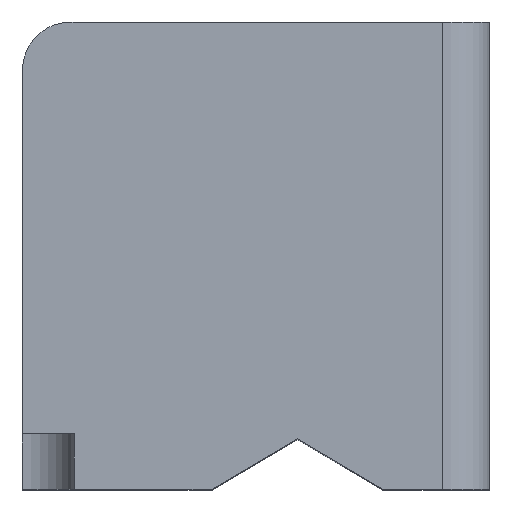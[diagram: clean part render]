
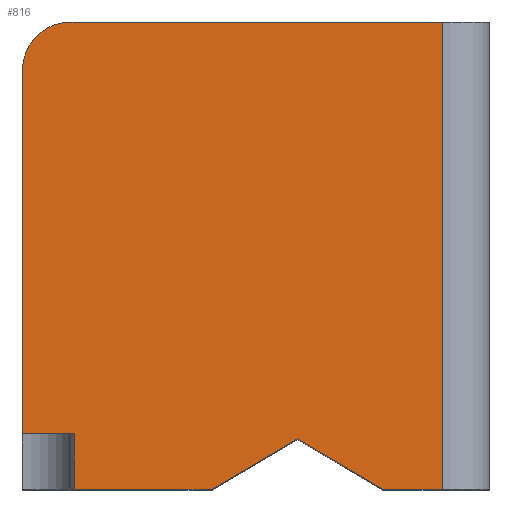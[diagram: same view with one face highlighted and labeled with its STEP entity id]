
A CAD part, top view. The second image highlights one B-rep face of the part: STEP entity #816.
In plain terms, the highlighted planar face has unit normal (0, 0, 1).
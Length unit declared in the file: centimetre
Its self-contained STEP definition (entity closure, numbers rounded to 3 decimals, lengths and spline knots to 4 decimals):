
#32 = ORIENTED_EDGE ( 'NONE', *, *, #1071, .T. ) ;
#64 = EDGE_CURVE ( 'NONE', #1068, #1270, #1198, .T. ) ;
#68 = ORIENTED_EDGE ( 'NONE', *, *, #310, .T. ) ;
#91 = DIRECTION ( 'NONE',  ( 0., -1., 0. ) ) ;
#112 = EDGE_LOOP ( 'NONE', ( #68, #531, #169, #1341, #1032, #851, #433, #1292, #32, #396 ) ) ;
#129 = EDGE_CURVE ( 'NONE', #224, #1359, #694, .T. ) ;
#130 = DIRECTION ( 'NONE',  ( 1., 0., 0. ) ) ;
#133 = VECTOR ( 'NONE', #1276, 100. ) ;
#149 = VECTOR ( 'NONE', #754, 100. ) ;
#169 = ORIENTED_EDGE ( 'NONE', *, *, #129, .T. ) ;
#176 = CIRCLE ( 'NONE', #1240, 104.0029 ) ;
#185 = DIRECTION ( 'NONE',  ( 0.861, 0.509, 0. ) ) ;
#224 = VERTEX_POINT ( 'NONE', #230 ) ;
#228 = CARTESIAN_POINT ( 'NONE',  ( 104.0029, 895.9971, 1000. ) ) ;
#230 = CARTESIAN_POINT ( 'NONE',  ( 899.8126, 0., 1000. ) ) ;
#243 = CARTESIAN_POINT ( 'NONE',  ( 0., 0., 1000. ) ) ;
#254 = DIRECTION ( 'NONE',  ( 1., 0., 0. ) ) ;
#268 = VERTEX_POINT ( 'NONE', #813 ) ;
#286 = VECTOR ( 'NONE', #254, 100. ) ;
#310 = EDGE_CURVE ( 'NONE', #1270, #864, #703, .T. ) ;
#313 = VECTOR ( 'NONE', #91, 100. ) ;
#324 = LINE ( 'NONE', #782, #1346 ) ;
#327 = LINE ( 'NONE', #1205, #313 ) ;
#354 = CARTESIAN_POINT ( 'NONE',  ( 0., 0., 1000. ) ) ;
#358 = DIRECTION ( 'NONE',  ( 0., 0., 1. ) ) ;
#373 = CARTESIAN_POINT ( 'NONE',  ( 588.5432, 107.8413, 1000. ) ) ;
#387 = EDGE_CURVE ( 'NONE', #268, #417, #1428, .T. ) ;
#396 = ORIENTED_EDGE ( 'NONE', *, *, #64, .T. ) ;
#417 = VERTEX_POINT ( 'NONE', #1314 ) ;
#422 = EDGE_CURVE ( 'NONE', #1113, #268, #327, .T. ) ;
#433 = ORIENTED_EDGE ( 'NONE', *, *, #387, .T. ) ;
#462 = FACE_OUTER_BOUND ( 'NONE', #112, .T. ) ;
#473 = EDGE_CURVE ( 'NONE', #730, #1113, #176, .T. ) ;
#484 = LINE ( 'NONE', #602, #738 ) ;
#517 = CARTESIAN_POINT ( 'NONE',  ( 0., 118.4268, 1000. ) ) ;
#531 = ORIENTED_EDGE ( 'NONE', *, *, #877, .T. ) ;
#536 = CARTESIAN_POINT ( 'NONE',  ( 405.9948, 0., 1000. ) ) ;
#566 = CARTESIAN_POINT ( 'NONE',  ( 899.8126, 1000., 1000. ) ) ;
#602 = CARTESIAN_POINT ( 'NONE',  ( 111.4864, 118.4268, 1000. ) ) ;
#628 = DIRECTION ( 'NONE',  ( 0., 1., 0. ) ) ;
#635 = AXIS2_PLACEMENT_3D ( 'NONE', #243, #1150, #1308 ) ;
#638 = EDGE_CURVE ( 'NONE', #1359, #730, #1282, .T. ) ;
#639 = EDGE_CURVE ( 'NONE', #648, #417, #484, .T. ) ;
#648 = VERTEX_POINT ( 'NONE', #1277 ) ;
#694 = LINE ( 'NONE', #566, #797 ) ;
#703 = LINE ( 'NONE', #943, #133 ) ;
#728 = VECTOR ( 'NONE', #185, 100. ) ;
#730 = VERTEX_POINT ( 'NONE', #1329 ) ;
#738 = VECTOR ( 'NONE', #628, 100. ) ;
#754 = DIRECTION ( 'NONE',  ( -1., 0., 0. ) ) ;
#757 = CARTESIAN_POINT ( 'NONE',  ( 899.8126, 1000., 1000. ) ) ;
#782 = CARTESIAN_POINT ( 'NONE',  ( 0., 0., 1000. ) ) ;
#797 = VECTOR ( 'NONE', #1011, 100. ) ;
#813 = CARTESIAN_POINT ( 'NONE',  ( 0., 118.4268, 1000. ) ) ;
#816 = ADVANCED_FACE ( 'NONE', ( #462 ), #1255, .T. ) ;
#830 = CARTESIAN_POINT ( 'NONE',  ( 0., 1000., 1000. ) ) ;
#851 = ORIENTED_EDGE ( 'NONE', *, *, #422, .T. ) ;
#864 = VERTEX_POINT ( 'NONE', #1040 ) ;
#877 = EDGE_CURVE ( 'NONE', #864, #224, #1365, .T. ) ;
#894 = CARTESIAN_POINT ( 'NONE',  ( 405.9948, 0., 1000. ) ) ;
#943 = CARTESIAN_POINT ( 'NONE',  ( 588.5432, 107.8413, 1000. ) ) ;
#1007 = DIRECTION ( 'NONE',  ( 1., 0., 0. ) ) ;
#1011 = DIRECTION ( 'NONE',  ( 0., 1., 0. ) ) ;
#1032 = ORIENTED_EDGE ( 'NONE', *, *, #473, .T. ) ;
#1034 = CARTESIAN_POINT ( 'NONE',  ( 0., 895.9971, 1000. ) ) ;
#1040 = CARTESIAN_POINT ( 'NONE',  ( 771.0916, 0., 1000. ) ) ;
#1068 = VERTEX_POINT ( 'NONE', #536 ) ;
#1071 = EDGE_CURVE ( 'NONE', #648, #1068, #324, .T. ) ;
#1082 = VECTOR ( 'NONE', #1007, 100. ) ;
#1113 = VERTEX_POINT ( 'NONE', #1034 ) ;
#1149 = DIRECTION ( 'NONE',  ( 1., 0., 0. ) ) ;
#1150 = DIRECTION ( 'NONE',  ( 0., 0., 1. ) ) ;
#1198 = LINE ( 'NONE', #894, #728 ) ;
#1205 = CARTESIAN_POINT ( 'NONE',  ( 0., 1000., 1000. ) ) ;
#1240 = AXIS2_PLACEMENT_3D ( 'NONE', #228, #358, #1149 ) ;
#1255 = PLANE ( 'NONE',  #635 ) ;
#1270 = VERTEX_POINT ( 'NONE', #373 ) ;
#1276 = DIRECTION ( 'NONE',  ( 0.861, -0.509, 0. ) ) ;
#1277 = CARTESIAN_POINT ( 'NONE',  ( 111.4864, 0., 1000. ) ) ;
#1282 = LINE ( 'NONE', #830, #149 ) ;
#1292 = ORIENTED_EDGE ( 'NONE', *, *, #639, .F. ) ;
#1308 = DIRECTION ( 'NONE',  ( 1., 0., 0. ) ) ;
#1314 = CARTESIAN_POINT ( 'NONE',  ( 111.4864, 118.4268, 1000. ) ) ;
#1329 = CARTESIAN_POINT ( 'NONE',  ( 104.0029, 1000., 1000. ) ) ;
#1341 = ORIENTED_EDGE ( 'NONE', *, *, #638, .T. ) ;
#1346 = VECTOR ( 'NONE', #130, 100. ) ;
#1359 = VERTEX_POINT ( 'NONE', #757 ) ;
#1365 = LINE ( 'NONE', #354, #286 ) ;
#1428 = LINE ( 'NONE', #517, #1082 ) ;
